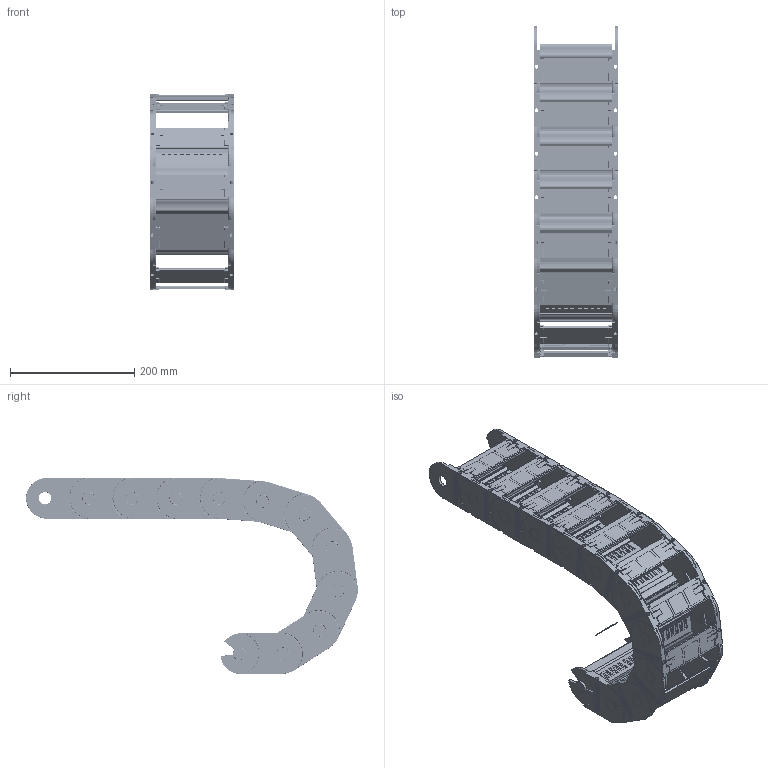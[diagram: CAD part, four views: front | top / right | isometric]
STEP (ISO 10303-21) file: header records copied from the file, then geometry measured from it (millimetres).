
FILE_DESCRIPTION((''),'2;1');
FILE_NAME('C:\Uebbing\PARAMETERKETTEN\KOLIBRI\Kol_65_135_1\Kol_65_135_1_R125.stp','2012-03-06T08:55:11',('Uebbing'),(''),'Autodesk Inventor 10','Autodesk Inventor 10','');
FILE_SCHEMA(('AUTOMOTIVE_DESIGN { 1 0 10303 214 1 1 1 1 }'));
Length unit declared in the file: millimetre
Products named in the file (5): KOLIBRI 65_135_1_PARAMETRISCH; Achse; Kol_65_135_1; Kol_65_135_5 Lasche; Kol_65_135_1 Klappsteg
Assembly tree (14 placements, depth 3):
  KOLIBRI 65_135_1_PARAMETRISCH
    Achse
    Kol_65_135_1  x11
      Kol_65_135_5 Lasche
      Kol_65_135_1 Klappsteg
Bounding box: 135 x 533.6 x 315 mm (x, y, z)
Volume: 1154526.1 mm3; surface area: 771357.2 mm2
Topology: 23 solids, 23 shells, 6350 faces, 17373 edges, 11124 vertices
Faces by surface type: plane 2642, bspline 2376, cylinder 1068, torus 198, cone 44, sphere 22
Full cylindrical faces by diameter (mm): 1 x1, 2.514 x11, 4 x33, 4.414 x11, 6 x11, 20 x22
Entity records: 19710 total; most frequent: CARTESIAN_POINT 5473, ORIENTED_EDGE 3092, DIRECTION 2640, EDGE_CURVE 1546, VECTOR 1126, LINE 1126, VERTEX_POINT 1002, AXIS2_PLACEMENT_3D 757
